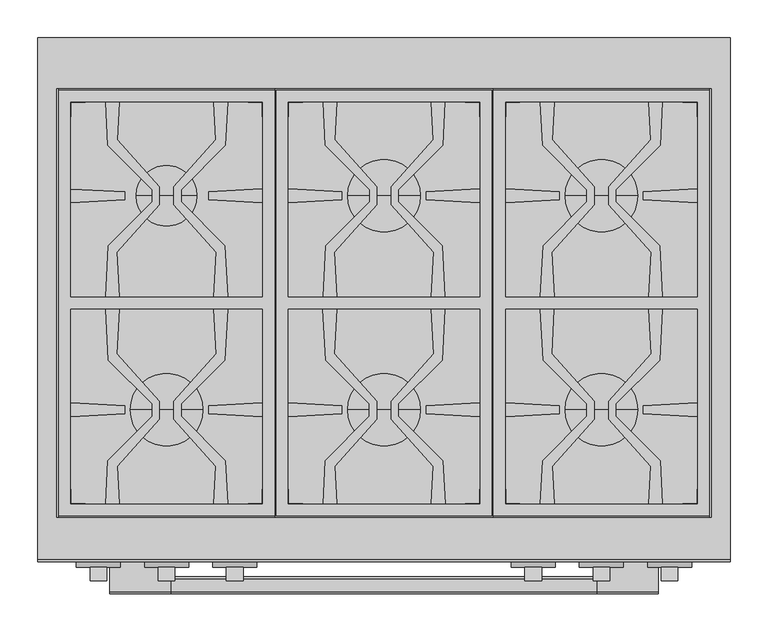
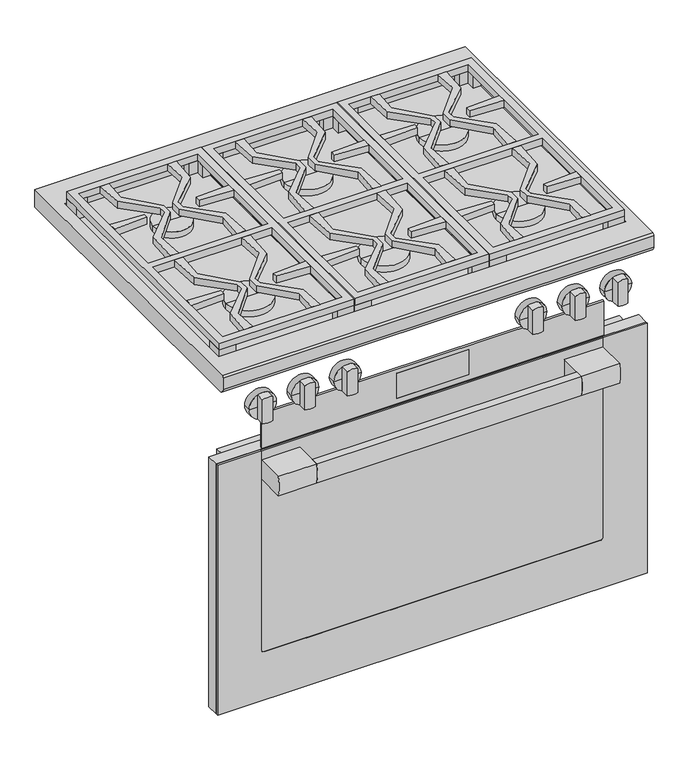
"""IFC4 building model written with IfcOpenShell, lengths in millimetres: proxy geometry, 11791590_USA_HR1934-3LP_EDST-CLS : 25193482_USA_11791590_HR1934-3LP_EDST-CLS."""

from ifc_helpers import new_model, si_unit, point, frame, frame_2d, origin, place, context, project, spatial, polyline, circle_curve, trimmed, segment, composite_curve, outline, extrude, source, transform, mapped, element, save
from ifc_brep_helpers import plane_surface, cylinder_surface, revolved_surface, advanced_brep


def specialty_equipment_1dc6350c(model_context):
    return source(origin(), model_context, "Body", "SolidModel", [
        extrude(outline(composite_curve([segment(polyline([(-714.0, 624.0), (-731.0, 624.0)]), True, "CONTINUOUS"), segment(trimmed(circle_curve(frame_2d((-655.4583333, 645.5)), 78.5416667), [point((-731.0, 624.0))], [point((-731.0, 667.0))], False, "CARTESIAN"), True, "CONTINUOUS"), segment(polyline([(-731.0, 667.0), (-714.0, 667.0)]), True, "CONTINUOUS"), segment(trimmed(circle_curve(frame_2d((-789.5416667, 645.5)), 78.5416667), [point((-714.0, 667.0))], [point((-714.0, 624.0))], False, "CARTESIAN"), True, "CONTINUOUS")], self_intersect=False)), frame((-281.0, 0.0, 0.0), z_axis=(1.0, 0.0, 0.0), x_axis=(0.0, 1.0, 0.0)), (0.0, 0.0, 1.0), 562.0),
        extrude(outline(composite_curve([segment(polyline([(-731.0, 667.0), (-668.7, 667.0), (-668.7, 624.0), (-731.0, 624.0)]), True, "CONTINUOUS"), segment(trimmed(circle_curve(frame_2d((-655.4583333, 645.5)), 78.5416667), [point((-731.0, 624.0))], [point((-731.0, 667.0))], False, "CARTESIAN"), True, "CONTINUOUS")], self_intersect=False)), frame((281.0, 0.0, 0.0), z_axis=(1.0, 0.0, 0.0), x_axis=(0.0, 1.0, 0.0)), (0.0, 0.0, 1.0), 81.0),
        extrude(outline(composite_curve([segment(polyline([(-668.7, 667.0), (-668.7, 624.0), (-731.0, 624.0)]), True, "CONTINUOUS"), segment(trimmed(circle_curve(frame_2d((-655.4583333, 645.5)), 78.5416667), [point((-731.0, 624.0))], [point((-731.0, 667.0))], False, "CARTESIAN"), True, "CONTINUOUS"), segment(polyline([(-731.0, 667.0), (-668.7, 667.0)]), True, "CONTINUOUS")], self_intersect=False)), frame((-362.0, 0.0, 0.0), z_axis=(1.0, 0.0, 0.0), x_axis=(0.0, 1.0, 0.0)), (0.0, 0.0, 1.0), 81.0),
        extrude(outline(polyline([(-456.0, -638.0), (456.0, -638.0), (456.0, -664.7), (-456.0, -664.7), (-456.0, -638.0)])), frame((0.0, 0.0, 127.0), z_axis=(0.0, 0.0, 1.0), x_axis=(1.0, 0.0, 0.0)), (0.0, 0.0, 1.0), 561.0),
        extrude(outline(polyline([(-455.0, -664.7), (455.0, -664.7), (455.0, -668.7), (-455.0, -668.7), (-455.0, -664.7)])), frame((0.0, 0.0, 128.0), z_axis=(0.0, 0.0, 1.0), x_axis=(1.0, 0.0, 0.0)), (0.0, 0.0, 1.0), 559.0),
        advanced_brep(
        [(363.0, -664.7, 688.0), (456.0, -664.7, 688.0), (456.0, -664.7, 127.0), (-456.0, -664.7, 127.0), (-456.0, -664.7, 688.0), (-363.0, -664.7, 688.0), (-363.0, -664.7, 687.0), (-455.0, -664.7, 687.0), (-455.0, -664.7, 128.0), (455.0, -664.7, 128.0), (455.0, -664.7, 687.0), (363.0, -664.7, 687.0), (-363.0, -670.0, 688.0), (-456.0, -670.0, 688.0), (-456.0, -670.0, 127.0), (456.0, -670.0, 127.0), (456.0, -670.0, 688.0), (363.0, -670.0, 688.0), (363.0, -670.0, 241.0), (357.0, -670.0, 235.0), (-357.0, -670.0, 235.0), (-363.0, -670.0, 241.0), (-363.0, -668.7, 241.0), (-363.0, -668.7, 687.0), (357.0, -668.7, 235.0), (-357.0, -668.7, 235.0), (363.0, -668.7, 687.0), (363.0, -668.7, 241.0), (455.0, -668.7, 687.0), (455.0, -668.7, 128.0), (-455.0, -668.7, 128.0), (-455.0, -668.7, 687.0)],
        [
            (0, 1),
            (1, 2),
            (2, 3),
            (3, 4),
            (4, 5),
            (5, 6),
            (6, 7),
            (7, 8),
            (8, 9),
            (9, 10),
            (10, 11),
            (11, 0),
            (12, 13),
            (13, 14),
            (14, 15),
            (15, 16),
            (16, 17),
            (17, 18),
            (18, 19, circle_curve(frame((357.0, -670.0, 241.0), z_axis=(0.0, 1.0, 0.0), x_axis=(-1.0, 0.0, 0.0)), 6.0)),
            (19, 20),
            (20, 21, circle_curve(frame((-357.0, -670.0, 241.0), z_axis=(0.0, 1.0, 0.0), x_axis=(-1.0, 0.0, 0.0)), 6.0)),
            (21, 12),
            (21, 22),
            (22, 23),
            (23, 6),
            (5, 12),
            (19, 24),
            (24, 25),
            (25, 20),
            (17, 0),
            (11, 26),
            (26, 27),
            (27, 18),
            (16, 1),
            (15, 2),
            (14, 3),
            (13, 4),
            (25, 22, circle_curve(frame((-357.0, -668.7, 241.0), z_axis=(0.0, 1.0, 0.0), x_axis=(-1.0, 0.0, 0.0)), 6.0)),
            (27, 24, circle_curve(frame((357.0, -668.7, 241.0), z_axis=(0.0, 1.0, 0.0), x_axis=(-1.0, 0.0, 0.0)), 6.0)),
            (28, 29),
            (29, 30),
            (30, 31),
            (31, 23),
            (26, 28),
            (28, 10),
            (9, 29),
            (8, 30),
            (7, 31),
        ],
        [
            plane_surface(frame((-363.0, -664.7, 241.0), z_axis=(0.0, 1.0, 0.0), x_axis=(0.0, 0.0, -1.0))),
            plane_surface(frame((-363.0, -670.0, 241.0), z_axis=(0.0, -1.0, 0.0), x_axis=(0.0, 0.0, 1.0))),
            plane_surface(frame((-363.0, -664.7, 688.0), z_axis=(1.0, 0.0, 0.0), x_axis=(0.0, -1.0, 0.0))),
            plane_surface(frame((-357.0, -664.7, 235.0), z_axis=(0.0, 0.0, 1.0), x_axis=(0.0, -1.0, 0.0))),
            plane_surface(frame((363.0, -664.7, 241.0), z_axis=(-1.0, 0.0, 0.0), x_axis=(0.0, -1.0, 0.0))),
            plane_surface(frame((363.0, -664.7, 688.0), z_axis=(0.0, 0.0, 1.0), x_axis=(0.0, -1.0, 0.0))),
            plane_surface(frame((456.0, -664.7, 688.0), z_axis=(1.0, 0.0, 0.0), x_axis=(0.0, -1.0, 0.0))),
            plane_surface(frame((456.0, -664.7, 127.0), z_axis=(0.0, 0.0, -1.0), x_axis=(0.0, -1.0, 0.0))),
            plane_surface(frame((-456.0, -664.7, 127.0), z_axis=(-1.0, 0.0, 0.0), x_axis=(0.0, -1.0, 0.0))),
            plane_surface(frame((-456.0, -664.7, 688.0), z_axis=(0.0, 0.0, 1.0), x_axis=(0.0, -1.0, 0.0))),
            revolved_surface(polyline([(-363.0, -670.0, 241.0), (-363.0, -668.7, 241.0)]), (-357.0, -670.0, 241.0), (0.0, -1.0, 0.0)),
            revolved_surface(polyline([(351.0, -670.0, 241.0), (351.0, -668.7, 241.0)]), (357.0, -670.0, 241.0), (0.0, -1.0, 0.0)),
            plane_surface(frame((455.0, -668.7, 687.0), z_axis=(0.0, 1.0, 0.0), x_axis=(0.0, 0.0, 1.0))),
            plane_surface(frame((455.0, -664.7, 687.0), z_axis=(-1.0, 0.0, 0.0), x_axis=(0.0, -1.0, 0.0))),
            plane_surface(frame((455.0, -664.7, 128.0), z_axis=(0.0, 0.0, 1.0), x_axis=(0.0, -1.0, 0.0))),
            plane_surface(frame((-455.0, -664.7, 128.0), z_axis=(1.0, 0.0, 0.0), x_axis=(0.0, -1.0, 0.0))),
            plane_surface(frame((-455.0, -664.7, 687.0), z_axis=(0.0, 0.0, -1.0), x_axis=(0.0, -1.0, 0.0))),
        ],
        [
            (0, [[1, 2, 3, 4, 5, 6, 7, 8, 9, 10, 11, 12]]),
            (1, [[13, 14, 15, 16, 17, 18, 19, 20, 21, 22]]),
            (2, [[-22, 23, 24, 25, -6, 26]]),
            (3, [[-20, 27, 28, 29]]),
            (4, [[-18, 30, -12, 31, 32, 33]]),
            (5, [[-1, -30, -17, 34]]),
            (6, [[-2, -34, -16, 35]]),
            (7, [[-3, -35, -15, 36]]),
            (8, [[-4, -36, -14, 37]]),
            (9, [[-5, -37, -13, -26]]),
            (10, [[-21, -29, 38, -23]]),
            (11, [[-19, -33, 39, -27]]),
            (12, [[40, 41, 42, 43, -24, -38, -28, -39, -32, 44]]),
            (13, [[-40, 45, -10, 46]]),
            (14, [[-41, -46, -9, 47]]),
            (15, [[-42, -47, -8, 48]]),
            (16, [[-45, -44, -31, -11]]),
            (16, [[-48, -7, -25, -43]]),
        ],
    ),
        extrude(outline(polyline([(-427.0, -617.0), (427.0, -617.0), (427.0, -638.0), (-427.0, -638.0), (-427.0, -617.0)])), frame((0.0, 0.0, 133.0), z_axis=(0.0, 0.0, 1.0), x_axis=(1.0, 0.0, 0.0)), (0.0, 0.0, 1.0), 550.0),
        extrude(outline(polyline([(206.4177304, -358.0273828), (224.4174107, -358.0273828), (221.3474419, -416.9894265), (277.4590566, -479.568392), (277.4590566, -503.4471434), (221.8930533, -565.5024535), (224.5051055, -615.0212482), (206.5054252, -615.0212482), (209.4706458, -558.0710081), (267.8494553, -499.6921986), (267.8494553, -483.3657133), (209.9764383, -425.4926963), (206.4177304, -358.0273828)])), frame((0.0, 0.0, 914.0), z_axis=(0.0, 0.0, 1.0), x_axis=(1.0, 0.0, 0.0)), (0.0, 0.0, 1.0), 15.0),
        extrude(outline(polyline([(352.5666917, -416.9448139), (349.4588735, -358.0273828), (367.4534566, -358.0273828), (363.9434746, -425.4403498), (306.0712231, -483.3126013), (306.0712231, -499.6295194), (364.5438392, -558.1021355), (367.5462487, -615.0212482), (349.541471, -615.0212482), (352.1220648, -565.4581775), (296.4590702, -503.3795395), (296.4590702, -479.6049953), (352.5666917, -416.9448139)])), frame((0.0, 0.0, 914.0), z_axis=(0.0, 0.0, 1.0), x_axis=(1.0, 0.0, 0.0)), (0.0, 0.0, 1.0), 15.0),
        extrude(outline(polyline([(-80.5822696, -358.0273828), (-62.5825893, -358.0273828), (-65.6525581, -416.9894265), (-9.5409434, -479.568392), (-9.5409434, -503.4471434), (-65.1069467, -565.5024535), (-62.4948945, -615.0212482), (-80.4945748, -615.0212482), (-77.5293542, -558.0710081), (-19.1505447, -499.6921986), (-19.1505447, -483.3657133), (-77.0235617, -425.4926963), (-80.5822696, -358.0273828)])), frame((0.0, 0.0, 914.0), z_axis=(0.0, 0.0, 1.0), x_axis=(1.0, 0.0, 0.0)), (0.0, 0.0, 1.0), 15.0),
        extrude(outline(polyline([(65.5666917, -416.9448139), (62.4588735, -358.0273828), (80.4534566, -358.0273828), (76.9434746, -425.4403498), (19.0712231, -483.3126013), (19.0712231, -499.6295194), (77.5438392, -558.1021355), (80.5462487, -615.0212482), (62.541471, -615.0212482), (65.1220648, -565.4581775), (9.4590702, -503.3795395), (9.4590702, -479.6049953), (65.5666917, -416.9448139)])), frame((0.0, 0.0, 914.0), z_axis=(0.0, 0.0, 1.0), x_axis=(1.0, 0.0, 0.0)), (0.0, 0.0, 1.0), 15.0),
        extrude(outline(polyline([(-367.5822696, -358.0273828), (-349.5825893, -358.0273828), (-352.6525581, -416.9894265), (-296.5409434, -479.568392), (-296.5409434, -503.4471434), (-352.1069467, -565.5024535), (-349.4948945, -615.0212482), (-367.4945748, -615.0212482), (-364.5293542, -558.0710081), (-306.1505447, -499.6921986), (-306.1505447, -483.3657133), (-364.0235617, -425.4926963), (-367.5822696, -358.0273828)])), frame((0.0, 0.0, 914.0), z_axis=(0.0, 0.0, 1.0), x_axis=(1.0, 0.0, 0.0)), (0.0, 0.0, 1.0), 15.0),
        extrude(outline(polyline([(-224.5411265, -358.0273828), (-206.5465434, -358.0273828), (-210.0565254, -425.4403498), (-267.9287769, -483.3126013), (-267.9287769, -499.6295194), (-209.4561608, -558.1021355), (-206.4537513, -615.0212482), (-224.458529, -615.0212482), (-221.8779352, -565.4581775), (-277.5409298, -503.3795395), (-277.5409298, -479.6049953), (-221.4333083, -416.9448139), (-224.5411265, -358.0273828)])), frame((0.0, 0.0, 914.0), z_axis=(0.0, 0.0, 1.0), x_axis=(1.0, 0.0, 0.0)), (0.0, 0.0, 1.0), 15.0),
        extrude(outline(polyline([(206.4614138, -85.0), (224.4614138, -85.0), (221.8661974, -134.5196799), (277.5, -196.6082182), (277.5, -220.3917818), (221.3710782, -283.0328838), (224.4614138, -342.0), (206.4614138, -342.0), (209.9971843, -274.5334805), (267.8891082, -216.6415566), (267.8891082, -200.3584434), (209.4441217, -141.9134569), (206.4614138, -85.0)])), frame((0.0, 0.0, 914.0), z_axis=(0.0, 0.0, 1.0), x_axis=(1.0, 0.0, 0.0)), (0.0, 0.0, 1.0), 15.0),
        extrude(outline(polyline([(349.5, -85.0), (367.5, -85.0), (364.5172921, -141.9134569), (306.1108918, -200.3198573), (306.1108918, -216.6801428), (363.9642295, -274.5334805), (367.5, -342.0), (349.5, -342.0), (352.5903356, -283.0328839), (296.5, -220.4348449), (296.5, -196.5651551), (352.0952165, -134.5196799), (349.5, -85.0)])), frame((0.0, 0.0, 914.0), z_axis=(0.0, 0.0, 1.0), x_axis=(1.0, 0.0, 0.0)), (0.0, 0.0, 1.0), 15.0),
        extrude(outline(polyline([(-367.5385862, -85.0), (-349.5385862, -85.0), (-352.1338026, -134.5196799), (-296.5, -196.6082182), (-296.5, -220.3917818), (-352.6289218, -283.0328838), (-349.5385862, -342.0), (-367.5385862, -342.0), (-364.0028157, -274.5334805), (-306.1108918, -216.6415566), (-306.1108918, -200.3584434), (-364.5558783, -141.9134569), (-367.5385862, -85.0)])), frame((0.0, 0.0, 914.0), z_axis=(0.0, 0.0, 1.0), x_axis=(1.0, 0.0, 0.0)), (0.0, 0.0, 1.0), 15.0),
        extrude(outline(polyline([(-224.5, -85.0), (-206.5, -85.0), (-209.4827079, -141.9134569), (-267.8891082, -200.3198573), (-267.8891082, -216.6801428), (-210.0357705, -274.5334805), (-206.5, -342.0), (-224.5, -342.0), (-221.4096644, -283.0328839), (-277.5, -220.4348449), (-277.5, -196.5651551), (-221.9047835, -134.5196799), (-224.5, -85.0)])), frame((0.0, 0.0, 914.0), z_axis=(0.0, 0.0, 1.0), x_axis=(1.0, 0.0, 0.0)), (0.0, 0.0, 1.0), 15.0),
        extrude(outline(polyline([(-62.5385862, -85.0), (-65.1338026, -134.5196799), (-9.5, -196.6082182), (-9.5, -220.3917818), (-65.6289218, -283.0328838), (-62.5385862, -342.0), (-80.5385862, -342.0), (-77.0028157, -274.5334805), (-19.1108918, -216.6415566), (-19.1108918, -200.3584434), (-77.5558783, -141.9134569), (-80.5385862, -85.0), (-62.5385862, -85.0)])), frame((0.0, 0.0, 914.0), z_axis=(0.0, 0.0, 1.0), x_axis=(1.0, 0.0, 0.0)), (0.0, 0.0, 1.0), 15.0),
        extrude(outline(polyline([(65.0952165, -134.5196799), (62.5, -85.0), (80.5, -85.0), (77.5172921, -141.9134569), (19.1108918, -200.3198573), (19.1108918, -216.6801428), (76.9642295, -274.5334805), (80.5, -342.0), (62.5, -342.0), (65.5903356, -283.0328839), (9.5, -220.4348449), (9.5, -196.5651551), (65.0952165, -134.5196799)])), frame((0.0, 0.0, 914.0), z_axis=(0.0, 0.0, 1.0), x_axis=(1.0, 0.0, 0.0)), (0.0, 0.0, 1.0), 15.0),
        extrude(outline(polyline([(429.5, -67.0), (429.5, -633.0), (144.5, -633.0), (144.5, -67.0), (429.5, -67.0)])), frame((0.0, 0.0, 870.0), z_axis=(0.0, 0.0, 1.0), x_axis=(1.0, 0.0, 0.0)), (0.0, 0.0, 1.0), 17.0),
        extrude(outline(polyline([(142.5, -69.0), (142.5, -631.0), (-142.5, -631.0), (-142.5, -69.0), (142.5, -69.0)])), frame((0.0, 0.0, 870.0), z_axis=(0.0, 0.0, 1.0), x_axis=(1.0, 0.0, 0.0)), (0.0, 0.0, 1.0), 17.0),
        extrude(outline(polyline([(-144.5, -67.0), (-144.5, -633.0), (-429.5, -633.0), (-429.5, -67.0), (-144.5, -67.0)])), frame((0.0, 0.0, 870.0), z_axis=(0.0, 0.0, 1.0), x_axis=(1.0, 0.0, 0.0)), (0.0, 0.0, 1.0), 17.0),
        extrude(outline(polyline([(-342.5, -213.7921261), (-413.5, -217.4578849), (-413.5, -199.5421151), (-342.5, -203.2078739), (-342.5, -213.7921261)])), frame((0.0, 0.0, 914.0), z_axis=(0.0, 0.0, 1.0), x_axis=(1.0, 0.0, 0.0)), (0.0, 0.0, 1.0), 15.0),
        extrude(outline(polyline([(-160.5, -199.5029948), (-160.5, -217.4970052), (-231.5, -213.7790477), (-231.5, -203.2209523), (-160.5, -199.5029948)])), frame((0.0, 0.0, 914.0), z_axis=(0.0, 0.0, 1.0), x_axis=(1.0, 0.0, 0.0)), (0.0, 0.0, 1.0), 15.0),
        extrude(outline(polyline([(-342.5, -496.2921261), (-413.5, -499.9578849), (-413.5, -482.0421151), (-342.5, -485.7078739), (-342.5, -496.2921261)])), frame((0.0, 0.0, 914.0), z_axis=(0.0, 0.0, 1.0), x_axis=(1.0, 0.0, 0.0)), (0.0, 0.0, 1.0), 15.0),
        extrude(outline(polyline([(-160.5, -482.0029948), (-160.5, -499.9970052), (-231.5, -496.2790477), (-231.5, -485.7209523), (-160.5, -482.0029948)])), frame((0.0, 0.0, 914.0), z_axis=(0.0, 0.0, 1.0), x_axis=(1.0, 0.0, 0.0)), (0.0, 0.0, 1.0), 15.0),
        extrude(outline(polyline([(-144.5, -631.0), (-179.5, -631.0), (-179.5, -615.0), (-160.5, -615.0), (-160.5, -596.0), (-144.5, -596.0), (-144.5, -631.0)])), frame((0.0, 0.0, 887.0), z_axis=(0.0, 0.0, 1.0), x_axis=(1.0, 0.0, 0.0)), (0.0, 0.0, 1.0), 27.0),
        extrude(outline(polyline([(-429.5, -631.0), (-429.5, -596.0), (-413.5, -596.0), (-413.5, -615.0), (-394.5, -615.0), (-394.5, -631.0), (-429.5, -631.0)])), frame((0.0, 0.0, 887.0), z_axis=(0.0, 0.0, 1.0), x_axis=(1.0, 0.0, 0.0)), (0.0, 0.0, 1.0), 27.0),
        extrude(outline(polyline([(-144.5, -69.0), (-144.5, -104.0), (-160.5, -104.0), (-160.5, -85.0), (-179.5, -85.0), (-179.5, -69.0), (-144.5, -69.0)])), frame((0.0, 0.0, 887.0), z_axis=(0.0, 0.0, 1.0), x_axis=(1.0, 0.0, 0.0)), (0.0, 0.0, 1.0), 27.0),
        extrude(outline(polyline([(-429.5, -69.0), (-394.5, -69.0), (-394.5, -85.0), (-413.5, -85.0), (-413.5, -104.0), (-429.5, -104.0), (-429.5, -69.0)])), frame((0.0, 0.0, 887.0), z_axis=(0.0, 0.0, 1.0), x_axis=(1.0, 0.0, 0.0)), (0.0, 0.0, 1.0), 27.0),
        extrude(outline(polyline([(-126.4662166, -499.9810574), (-126.4662166, -482.0189426), (-55.4662166, -485.7078739), (-55.4662166, -496.2921261), (-126.4662166, -499.9810574)])), frame((0.0, 0.0, 914.0), z_axis=(0.0, 0.0, 1.0), x_axis=(1.0, 0.0, 0.0)), (0.0, 0.0, 1.0), 15.0),
        extrude(outline(polyline([(126.5337834, -482.0262039), (126.5337834, -499.9737961), (55.5337834, -496.2790477), (55.5337834, -485.7209523), (126.5337834, -482.0262039)])), frame((0.0, 0.0, 914.0), z_axis=(0.0, 0.0, 1.0), x_axis=(1.0, 0.0, 0.0)), (0.0, 0.0, 1.0), 15.0),
        extrude(outline(polyline([(160.5, -499.9810574), (160.5, -482.0189426), (231.5, -485.7078739), (231.5, -496.2921261), (160.5, -499.9810574)])), frame((0.0, 0.0, 914.0), z_axis=(0.0, 0.0, 1.0), x_axis=(1.0, 0.0, 0.0)), (0.0, 0.0, 1.0), 15.0),
        extrude(outline(polyline([(413.5, -482.0262039), (413.5, -499.9737961), (342.5, -496.2790477), (342.5, -485.7209523), (413.5, -482.0262039)])), frame((0.0, 0.0, 914.0), z_axis=(0.0, 0.0, 1.0), x_axis=(1.0, 0.0, 0.0)), (0.0, 0.0, 1.0), 15.0),
        extrude(outline(polyline([(160.5, -217.4810574), (160.5, -199.5189426), (231.5, -203.2078739), (231.5, -213.7921261), (160.5, -217.4810574)])), frame((0.0, 0.0, 914.0), z_axis=(0.0, 0.0, 1.0), x_axis=(1.0, 0.0, 0.0)), (0.0, 0.0, 1.0), 15.0),
        extrude(outline(polyline([(413.5, -199.5262039), (413.5, -217.4737961), (342.5, -213.7790477), (342.5, -203.2209523), (413.5, -199.5262039)])), frame((0.0, 0.0, 914.0), z_axis=(0.0, 0.0, 1.0), x_axis=(1.0, 0.0, 0.0)), (0.0, 0.0, 1.0), 15.0),
        extrude(outline(polyline([(-126.4662166, -217.4810574), (-126.4662166, -199.5189426), (-55.4662166, -203.2078739), (-55.4662166, -213.7921261), (-126.4662166, -217.4810574)])), frame((0.0, 0.0, 914.0), z_axis=(0.0, 0.0, 1.0), x_axis=(1.0, 0.0, 0.0)), (0.0, 0.0, 1.0), 15.0),
        extrude(outline(polyline([(126.5337834, -199.5262039), (126.5337834, -217.4737961), (55.5337834, -213.7790477), (55.5337834, -203.2209523), (126.5337834, -199.5262039)])), frame((0.0, 0.0, 914.0), z_axis=(0.0, 0.0, 1.0), x_axis=(1.0, 0.0, 0.0)), (0.0, 0.0, 1.0), 15.0),
        advanced_brep(
        [(239.0, -208.5, 887.0), (335.0, -208.5, 887.0), (335.0, -208.5, 901.0), (239.0, -208.5, 901.0), (287.0, -208.5, 887.0), (287.0, -208.5, 901.0)],
        [
            (0, 1, circle_curve(frame((287.0, -208.5, 887.0), z_axis=(0.0, 0.0, 1.0), x_axis=(1.0, 0.0, 0.0)), 48.0)),
            (1, 2),
            (2, 3, circle_curve(frame((287.0, -208.5, 901.0), z_axis=(0.0, 0.0, -1.0), x_axis=(1.0, 0.0, 0.0)), 48.0)),
            (3, 0),
            (1, 0, circle_curve(frame((287.0, -208.5, 887.0), z_axis=(0.0, 0.0, 1.0), x_axis=(1.0, 0.0, 0.0)), 48.0)),
            (3, 2, circle_curve(frame((287.0, -208.5, 901.0), z_axis=(0.0, 0.0, -1.0), x_axis=(1.0, 0.0, 0.0)), 48.0)),
            (4, 1),
            (0, 4),
            (2, 5),
            (5, 3),
        ],
        [
            cylinder_surface(frame((287.0, -208.5, 2424.4), z_axis=(0.0, 0.0, -1.0), x_axis=(1.0, 0.0, 0.0)), 48.0),
            plane_surface(frame((287.0, -208.5, 887.0), z_axis=(0.0, 0.0, -1.0), x_axis=(1.0, 0.0, 0.0))),
            plane_surface(frame((287.0, -208.5, 901.0), z_axis=(0.0, 0.0, 1.0), x_axis=(1.0, 0.0, 0.0))),
        ],
        [
            (0, [[1, 2, 3, 4]]),
            (0, [[5, -4, 6, -2]]),
            (1, [[7, -1, 8]]),
            (1, [[-8, -5, -7]]),
            (2, [[-3, 9, 10]]),
            (2, [[-6, -10, -9]]),
        ],
    ),
        extrude(outline(polyline([(-144.5, -69.0), (-144.5, -631.0), (-429.5, -631.0), (-429.5, -69.0), (-144.5, -69.0)]), holes=[polyline([(-160.5, -85.0), (-413.5, -85.0), (-413.5, -342.0), (-160.5, -342.0), (-160.5, -85.0)]), polyline([(-413.5, -358.0), (-413.5, -615.0), (-160.5, -615.0), (-160.5, -358.0), (-413.5, -358.0)])]), frame((0.0, 0.0, 914.0), z_axis=(0.0, 0.0, 1.0), x_axis=(1.0, 0.0, 0.0)), (0.0, 0.0, 1.0), 15.0),
        extrude(outline(polyline([(142.5, -69.0), (142.5, -631.0), (-142.5, -631.0), (-142.5, -69.0), (142.5, -69.0)]), holes=[polyline([(126.5337834, -85.0), (-126.4662166, -85.0), (-126.4662166, -342.0), (126.5337834, -342.0), (126.5337834, -85.0)]), polyline([(-126.4662166, -358.0), (-126.4662166, -615.0), (126.5337834, -615.0), (126.5337834, -358.0), (-126.4662166, -358.0)])]), frame((0.0, 0.0, 914.0), z_axis=(0.0, 0.0, 1.0), x_axis=(1.0, 0.0, 0.0)), (0.0, 0.0, 1.0), 15.0),
        extrude(outline(polyline([(429.5, -69.0), (429.5, -631.0), (144.5, -631.0), (144.5, -69.0), (429.5, -69.0)]), holes=[polyline([(413.5, -85.0), (160.5, -85.0), (160.5, -342.0), (413.5, -342.0), (413.5, -85.0)]), polyline([(160.5, -358.0), (160.5, -615.0), (413.5, -615.0), (413.5, -358.0), (160.5, -358.0)])]), frame((0.0, 0.0, 914.0), z_axis=(0.0, 0.0, 1.0), x_axis=(1.0, 0.0, 0.0)), (0.0, 0.0, 1.0), 15.0),
        advanced_brep(
        [(239.0, -491.0, 887.0), (335.0, -491.0, 887.0), (335.0, -491.0, 901.0), (239.0, -491.0, 901.0), (287.0, -491.0, 887.0), (287.0, -491.0, 901.0)],
        [
            (0, 1, circle_curve(frame((287.0, -491.0, 887.0), z_axis=(0.0, 0.0, 1.0), x_axis=(1.0, 0.0, 0.0)), 48.0)),
            (1, 2),
            (2, 3, circle_curve(frame((287.0, -491.0, 901.0), z_axis=(0.0, 0.0, -1.0), x_axis=(1.0, 0.0, 0.0)), 48.0)),
            (3, 0),
            (1, 0, circle_curve(frame((287.0, -491.0, 887.0), z_axis=(0.0, 0.0, 1.0), x_axis=(1.0, 0.0, 0.0)), 48.0)),
            (3, 2, circle_curve(frame((287.0, -491.0, 901.0), z_axis=(0.0, 0.0, -1.0), x_axis=(1.0, 0.0, 0.0)), 48.0)),
            (4, 1),
            (0, 4),
            (2, 5),
            (5, 3),
        ],
        [
            cylinder_surface(frame((287.0, -491.0, 2424.4), z_axis=(0.0, 0.0, -1.0), x_axis=(1.0, 0.0, 0.0)), 48.0),
            plane_surface(frame((287.0, -491.0, 887.0), z_axis=(0.0, 0.0, -1.0), x_axis=(1.0, 0.0, 0.0))),
            plane_surface(frame((287.0, -491.0, 901.0), z_axis=(0.0, 0.0, 1.0), x_axis=(1.0, 0.0, 0.0))),
        ],
        [
            (0, [[1, 2, 3, 4]]),
            (0, [[5, -4, 6, -2]]),
            (1, [[7, -1, 8]]),
            (1, [[-8, -5, -7]]),
            (2, [[-3, 9, 10]]),
            (2, [[-6, -10, -9]]),
        ],
    ),
        extrude(outline(polyline([(429.5, -631.0), (394.5, -631.0), (394.5, -615.0), (413.5, -615.0), (413.5, -596.0), (429.5, -596.0), (429.5, -631.0)])), frame((0.0, 0.0, 887.0), z_axis=(0.0, 0.0, 1.0), x_axis=(1.0, 0.0, 0.0)), (0.0, 0.0, 1.0), 27.0),
        extrude(outline(polyline([(144.5, -631.0), (144.5, -596.0), (160.5125078, -596.0), (160.5125078, -615.0), (179.5, -615.0), (179.5, -631.0), (144.5, -631.0)])), frame((0.0, 0.0, 887.0), z_axis=(0.0, 0.0, 1.0), x_axis=(1.0, 0.0, 0.0)), (0.0, 0.0, 1.0), 27.0),
        extrude(outline(polyline([(429.5, -69.0), (429.5, -104.0), (413.4874922, -104.0), (413.4874922, -85.0), (394.5, -85.0), (394.5, -69.0), (429.5, -69.0)])), frame((0.0, 0.0, 887.0), z_axis=(0.0, 0.0, 1.0), x_axis=(1.0, 0.0, 0.0)), (0.0, 0.0, 1.0), 27.0),
        extrude(outline(polyline([(144.5, -69.0), (179.5, -69.0), (179.5, -85.0), (160.5125078, -85.0), (160.5125078, -104.0), (144.5, -104.0), (144.5, -69.0)])), frame((0.0, 0.0, 887.0), z_axis=(0.0, 0.0, 1.0), x_axis=(1.0, 0.0, 0.0)), (0.0, 0.0, 1.0), 27.0),
        extrude(outline(polyline([(142.5, -631.0), (107.5, -631.0), (107.5, -615.0), (126.5337834, -615.0), (126.5337834, -596.0), (142.5, -596.0), (142.5, -631.0)])), frame((0.0, 0.0, 887.0), z_axis=(0.0, 0.0, 1.0), x_axis=(1.0, 0.0, 0.0)), (0.0, 0.0, 1.0), 27.0),
        extrude(outline(polyline([(-142.5, -631.0), (-142.5, -596.0), (-126.4662166, -596.0), (-126.4662166, -615.0), (-107.5, -615.0), (-107.5, -631.0), (-142.5, -631.0)])), frame((0.0, 0.0, 887.0), z_axis=(0.0, 0.0, 1.0), x_axis=(1.0, 0.0, 0.0)), (0.0, 0.0, 1.0), 27.0),
        extrude(outline(polyline([(142.5, -69.0), (142.5, -104.0), (126.5337834, -104.0), (126.5337834, -85.0), (107.5, -85.0), (107.5, -69.0), (142.5, -69.0)])), frame((0.0, 0.0, 887.0), z_axis=(0.0, 0.0, 1.0), x_axis=(1.0, 0.0, 0.0)), (0.0, 0.0, 1.0), 27.0),
        extrude(outline(polyline([(-142.5, -69.0), (-107.5, -69.0), (-107.5, -85.0), (-126.4662166, -85.0), (-126.4662166, -104.0), (-142.5, -104.0), (-142.5, -69.0)])), frame((0.0, 0.0, 887.0), z_axis=(0.0, 0.0, 1.0), x_axis=(1.0, 0.0, 0.0)), (0.0, 0.0, 1.0), 27.0),
        advanced_brep(
        [(-48.0, -208.5, 887.0), (48.0, -208.5, 887.0), (48.0, -208.5, 901.0), (-48.0, -208.5, 901.0), (0.0, -208.5, 887.0), (0.0, -208.5, 901.0)],
        [
            (0, 1, circle_curve(frame((0.0, -208.5, 887.0), z_axis=(0.0, 0.0, 1.0), x_axis=(1.0, 0.0, 0.0)), 48.0)),
            (1, 2),
            (2, 3, circle_curve(frame((0.0, -208.5, 901.0), z_axis=(0.0, 0.0, -1.0), x_axis=(1.0, 0.0, 0.0)), 48.0)),
            (3, 0),
            (1, 0, circle_curve(frame((0.0, -208.5, 887.0), z_axis=(0.0, 0.0, 1.0), x_axis=(1.0, 0.0, 0.0)), 48.0)),
            (3, 2, circle_curve(frame((0.0, -208.5, 901.0), z_axis=(0.0, 0.0, -1.0), x_axis=(1.0, 0.0, 0.0)), 48.0)),
            (4, 1),
            (0, 4),
            (2, 5),
            (5, 3),
        ],
        [
            cylinder_surface(frame((0.0, -208.5, 2338.4), z_axis=(0.0, 0.0, -1.0), x_axis=(1.0, 0.0, 0.0)), 48.0),
            plane_surface(frame((0.0, -208.5, 887.0), z_axis=(0.0, 0.0, -1.0), x_axis=(1.0, 0.0, 0.0))),
            plane_surface(frame((0.0, -208.5, 901.0), z_axis=(0.0, 0.0, 1.0), x_axis=(1.0, 0.0, 0.0))),
        ],
        [
            (0, [[1, 2, 3, 4]]),
            (0, [[5, -4, 6, -2]]),
            (1, [[7, -1, 8]]),
            (1, [[-8, -5, -7]]),
            (2, [[-3, 9, 10]]),
            (2, [[-6, -10, -9]]),
        ],
    ),
        advanced_brep(
        [(-287.0, -208.5, 887.0), (-247.0, -208.5, 887.0), (-327.0, -208.5, 887.0), (-327.0, -208.5, 901.0), (-247.0, -208.5, 901.0), (-287.0, -208.5, 901.0)],
        [
            (0, 1),
            (1, 2, circle_curve(frame((-287.0, -208.5, 887.0), z_axis=(0.0, 0.0, -1.0), x_axis=(1.0, 0.0, 0.0)), 40.0)),
            (2, 0),
            (2, 1, circle_curve(frame((-287.0, -208.5, 887.0), z_axis=(0.0, 0.0, -1.0), x_axis=(1.0, 0.0, 0.0)), 40.0)),
            (3, 4, circle_curve(frame((-287.0, -208.5, 901.0), z_axis=(0.0, 0.0, 1.0), x_axis=(1.0, 0.0, 0.0)), 40.0)),
            (4, 5),
            (5, 3),
            (4, 3, circle_curve(frame((-287.0, -208.5, 901.0), z_axis=(0.0, 0.0, 1.0), x_axis=(1.0, 0.0, 0.0)), 40.0)),
            (1, 4),
            (3, 2),
        ],
        [
            plane_surface(frame((-287.0, -208.5, 887.0), z_axis=(0.0, 0.0, -1.0), x_axis=(1.0, 0.0, 0.0))),
            plane_surface(frame((-287.0, -208.5, 901.0), z_axis=(0.0, 0.0, 1.0), x_axis=(1.0, 0.0, 0.0))),
            cylinder_surface(frame((-287.0, -208.5, 2424.4), z_axis=(0.0, 0.0, -1.0), x_axis=(1.0, 0.0, 0.0)), 40.0),
        ],
        [
            (0, [[1, 2, 3]]),
            (0, [[-3, 4, -1]]),
            (1, [[5, 6, 7]]),
            (1, [[8, -7, -6]]),
            (2, [[-2, 9, -5, 10]]),
            (2, [[-4, -10, -8, -9]]),
        ],
    ),
        advanced_brep(
        [(-335.0, -491.0, 887.0), (-239.0, -491.0, 887.0), (-239.0, -491.0, 901.0), (-335.0, -491.0, 901.0), (-287.0, -491.0, 887.0), (-287.0, -491.0, 901.0)],
        [
            (0, 1, circle_curve(frame((-287.0, -491.0, 887.0), z_axis=(0.0, 0.0, 1.0), x_axis=(1.0, 0.0, 0.0)), 48.0)),
            (1, 2),
            (2, 3, circle_curve(frame((-287.0, -491.0, 901.0), z_axis=(0.0, 0.0, -1.0), x_axis=(1.0, 0.0, 0.0)), 48.0)),
            (3, 0),
            (1, 0, circle_curve(frame((-287.0, -491.0, 887.0), z_axis=(0.0, 0.0, 1.0), x_axis=(1.0, 0.0, 0.0)), 48.0)),
            (3, 2, circle_curve(frame((-287.0, -491.0, 901.0), z_axis=(0.0, 0.0, -1.0), x_axis=(1.0, 0.0, 0.0)), 48.0)),
            (4, 1),
            (0, 4),
            (2, 5),
            (5, 3),
        ],
        [
            cylinder_surface(frame((-287.0, -491.0, 2424.4), z_axis=(0.0, 0.0, -1.0), x_axis=(1.0, 0.0, 0.0)), 48.0),
            plane_surface(frame((-287.0, -491.0, 887.0), z_axis=(0.0, 0.0, -1.0), x_axis=(1.0, 0.0, 0.0))),
            plane_surface(frame((-287.0, -491.0, 901.0), z_axis=(0.0, 0.0, 1.0), x_axis=(1.0, 0.0, 0.0))),
        ],
        [
            (0, [[1, 2, 3, 4]]),
            (0, [[5, -4, 6, -2]]),
            (1, [[7, -1, 8]]),
            (1, [[-8, -5, -7]]),
            (2, [[-3, 9, 10]]),
            (2, [[-6, -10, -9]]),
        ],
    ),
        advanced_brep(
        [(-48.0, -491.0, 887.0), (48.0, -491.0, 887.0), (48.0, -491.0, 901.0), (-48.0, -491.0, 901.0), (0.0, -491.0, 887.0), (0.0, -491.0, 901.0)],
        [
            (0, 1, circle_curve(frame((0.0, -491.0, 887.0), z_axis=(0.0, 0.0, 1.0), x_axis=(1.0, 0.0, 0.0)), 48.0)),
            (1, 2),
            (2, 3, circle_curve(frame((0.0, -491.0, 901.0), z_axis=(0.0, 0.0, -1.0), x_axis=(1.0, 0.0, 0.0)), 48.0)),
            (3, 0),
            (1, 0, circle_curve(frame((0.0, -491.0, 887.0), z_axis=(0.0, 0.0, 1.0), x_axis=(1.0, 0.0, 0.0)), 48.0)),
            (3, 2, circle_curve(frame((0.0, -491.0, 901.0), z_axis=(0.0, 0.0, -1.0), x_axis=(1.0, 0.0, 0.0)), 48.0)),
            (4, 1),
            (0, 4),
            (2, 5),
            (5, 3),
        ],
        [
            cylinder_surface(frame((0.0, -491.0, 2424.4), z_axis=(0.0, 0.0, -1.0), x_axis=(1.0, 0.0, 0.0)), 48.0),
            plane_surface(frame((0.0, -491.0, 887.0), z_axis=(0.0, 0.0, -1.0), x_axis=(1.0, 0.0, 0.0))),
            plane_surface(frame((0.0, -491.0, 901.0), z_axis=(0.0, 0.0, 1.0), x_axis=(1.0, 0.0, 0.0))),
        ],
        [
            (0, [[1, 2, 3, 4]]),
            (0, [[5, -4, 6, -2]]),
            (1, [[7, -1, 8]]),
            (1, [[-8, -5, -7]]),
            (2, [[-3, 9, 10]]),
            (2, [[-6, -10, -9]]),
        ],
    ),
        advanced_brep(
        [(457.0, 0.0, 902.0), (457.0, -688.3499547, 902.0), (457.0, -692.0, 898.3499547), (457.0, -692.0, 872.0), (457.0, -682.0, 862.0), (457.0, 0.0, 862.0), (-457.0, 0.0, 902.0), (-457.0, 0.0, 862.0), (-457.0, -682.0, 862.0), (-457.0, -692.0, 872.0), (-457.0, -692.0, 898.3499547), (-457.0, -688.3499547, 902.0), (-432.0, -67.0, 902.0), (432.0, -67.0, 902.0), (432.0, -633.0, 902.0), (-432.0, -633.0, 902.0), (432.0, -67.0, 870.0), (-432.0, -67.0, 870.0), (-432.0, -633.0, 870.0), (432.0, -633.0, 870.0)],
        [
            (0, 1),
            (1, 2, circle_curve(frame((457.0, -688.0, 898.0), z_axis=(1.0, 0.0, 0.0), x_axis=(0.0, 0.0, 1.0)), 4.0152794)),
            (2, 3),
            (3, 4, circle_curve(frame((457.0, -682.0, 872.0), z_axis=(1.0, 0.0, 0.0), x_axis=(0.0, 0.0, 1.0)), 10.0)),
            (4, 5),
            (5, 0),
            (6, 7),
            (7, 8),
            (8, 9, circle_curve(frame((-457.0, -682.0, 872.0), z_axis=(-1.0, 0.0, 0.0), x_axis=(0.0, 0.0, 1.0)), 10.0)),
            (9, 10),
            (10, 11, circle_curve(frame((-457.0, -688.0, 898.0), z_axis=(-1.0, 0.0, 0.0), x_axis=(0.0, 0.0, 1.0)), 4.0152794)),
            (11, 6),
            (0, 6),
            (11, 1),
            (12, 13),
            (13, 14),
            (14, 15),
            (15, 12),
            (10, 2),
            (9, 3),
            (8, 4),
            (7, 5),
            (16, 17),
            (17, 18),
            (18, 19),
            (19, 16),
            (16, 13),
            (12, 17),
            (15, 18),
            (14, 19),
        ],
        [
            plane_surface(frame((457.0, -688.3499547, 902.0), z_axis=(1.0, 0.0, 0.0), x_axis=(0.0, -1.0, 0.0))),
            plane_surface(frame((-457.0, -688.3499547, 902.0), z_axis=(-1.0, 0.0, 0.0), x_axis=(0.0, 1.0, 0.0))),
            plane_surface(frame((457.0, 0.0, 902.0), z_axis=(0.0, 0.0, 1.0), x_axis=(-1.0, 0.0, 0.0))),
            cylinder_surface(frame((-457.0, -688.0, 898.0), z_axis=(1.0, 0.0, 0.0), x_axis=(0.0, 0.0, 1.0)), 4.0152794),
            plane_surface(frame((457.0, -692.0, 898.3499547), z_axis=(0.0, -1.0, 0.0), x_axis=(-1.0, 0.0, 0.0))),
            cylinder_surface(frame((-457.0, -682.0, 872.0), z_axis=(1.0, 0.0, 0.0), x_axis=(0.0, 0.0, 1.0)), 10.0),
            plane_surface(frame((457.0, -682.0, 862.0), z_axis=(0.0, 0.0, -1.0), x_axis=(-1.0, 0.0, 0.0))),
            plane_surface(frame((457.0, 0.0, 862.0), z_axis=(0.0, 1.0, 0.0), x_axis=(-1.0, 0.0, 0.0))),
            plane_surface(frame((-432.0, -67.0, 870.0), z_axis=(0.0, 0.0, 1.0), x_axis=(1.0, 0.0, 0.0))),
            plane_surface(frame((432.0, -67.0, 902.0), z_axis=(0.0, -1.0, 0.0), x_axis=(0.0, 0.0, -1.0))),
            plane_surface(frame((-432.0, -67.0, 902.0), z_axis=(1.0, 0.0, 0.0), x_axis=(0.0, 0.0, -1.0))),
            plane_surface(frame((-432.0, -633.0, 902.0), z_axis=(0.0, 1.0, 0.0), x_axis=(0.0, 0.0, -1.0))),
            plane_surface(frame((432.0, -633.0, 902.0), z_axis=(-1.0, 0.0, 0.0), x_axis=(0.0, 0.0, -1.0))),
        ],
        [
            (0, [[1, 2, 3, 4, 5, 6]]),
            (1, [[7, 8, 9, 10, 11, 12]]),
            (2, [[-1, 13, -12, 14], [15, 16, 17, 18]]),
            (3, [[-2, -14, -11, 19]]),
            (4, [[-3, -19, -10, 20]]),
            (5, [[-4, -20, -9, 21]]),
            (6, [[-5, -21, -8, 22]]),
            (7, [[-6, -22, -7, -13]]),
            (8, [[23, 24, 25, 26]]),
            (9, [[-23, 27, -15, 28]]),
            (10, [[-24, -28, -18, 29]]),
            (11, [[-25, -29, -17, 30]]),
            (12, [[-26, -30, -16, -27]]),
        ],
    ),
        extrude(outline(composite_curve([segment(polyline([(839.8328157, -388.0), (786.1671843, -388.0)]), True, "CONTINUOUS"), segment(trimmed(circle_curve(frame_2d((813.0, -377.0)), 29.0), [point((786.1671843, -388.0))], [point((786.1671843, -366.0))], False, "CARTESIAN"), True, "CONTINUOUS"), segment(polyline([(786.1671843, -366.0), (839.8328157, -366.0)]), True, "CONTINUOUS"), segment(trimmed(circle_curve(frame_2d((813.0, -377.0)), 29.0), [point((839.8328157, -366.0))], [point((839.8328157, -388.0))], False, "CARTESIAN"), True, "CONTINUOUS")], self_intersect=False)), frame((0.0, -717.0, 0.0), z_axis=(0.0, 1.0, 0.0), x_axis=(0.0, 0.0, 1.0)), (0.0, 0.0, 1.0), 18.0),
        extrude(outline(composite_curve([segment(polyline([(839.8328157, -298.0), (786.1671843, -298.0)]), True, "CONTINUOUS"), segment(trimmed(circle_curve(frame_2d((813.0, -287.0)), 29.0), [point((786.1671843, -298.0))], [point((786.1671843, -276.0))], False, "CARTESIAN"), True, "CONTINUOUS"), segment(polyline([(786.1671843, -276.0), (839.8328157, -276.0)]), True, "CONTINUOUS"), segment(trimmed(circle_curve(frame_2d((813.0, -287.0)), 29.0), [point((839.8328157, -276.0))], [point((839.8328157, -298.0))], False, "CARTESIAN"), True, "CONTINUOUS")], self_intersect=False)), frame((0.0, -717.0, 0.0), z_axis=(0.0, 1.0, 0.0), x_axis=(0.0, 0.0, 1.0)), (0.0, 0.0, 1.0), 18.0),
        extrude(outline(composite_curve([segment(polyline([(839.8328157, -208.0), (786.1671843, -208.0)]), True, "CONTINUOUS"), segment(trimmed(circle_curve(frame_2d((813.0, -197.0)), 29.0), [point((786.1671843, -208.0))], [point((786.1671843, -186.0))], False, "CARTESIAN"), True, "CONTINUOUS"), segment(polyline([(786.1671843, -186.0), (839.8328157, -186.0)]), True, "CONTINUOUS"), segment(trimmed(circle_curve(frame_2d((813.0, -197.0)), 29.0), [point((839.8328157, -186.0))], [point((839.8328157, -208.0))], False, "CARTESIAN"), True, "CONTINUOUS")], self_intersect=False)), frame((0.0, -717.0, 0.0), z_axis=(0.0, 1.0, 0.0), x_axis=(0.0, 0.0, 1.0)), (0.0, 0.0, 1.0), 18.0),
        extrude(outline(composite_curve([segment(polyline([(839.8328157, 186.0), (786.1671843, 186.0)]), True, "CONTINUOUS"), segment(trimmed(circle_curve(frame_2d((813.0, 197.0)), 29.0), [point((786.1671843, 186.0))], [point((786.1671843, 208.0))], False, "CARTESIAN"), True, "CONTINUOUS"), segment(polyline([(786.1671843, 208.0), (839.8328157, 208.0)]), True, "CONTINUOUS"), segment(trimmed(circle_curve(frame_2d((813.0, 197.0)), 29.0), [point((839.8328157, 208.0))], [point((839.8328157, 186.0))], False, "CARTESIAN"), True, "CONTINUOUS")], self_intersect=False)), frame((0.0, -717.0, 0.0), z_axis=(0.0, 1.0, 0.0), x_axis=(0.0, 0.0, 1.0)), (0.0, 0.0, 1.0), 18.0),
        extrude(outline(composite_curve([segment(trimmed(circle_curve(frame_2d((813.0, 287.0)), 29.0), [point((786.1671843, 276.0))], [point((786.1671843, 298.0))], False, "CARTESIAN"), True, "CONTINUOUS"), segment(polyline([(786.1671843, 298.0), (839.8328157, 298.0)]), True, "CONTINUOUS"), segment(trimmed(circle_curve(frame_2d((813.0, 287.0)), 29.0), [point((839.8328157, 298.0))], [point((839.8328157, 276.0))], False, "CARTESIAN"), True, "CONTINUOUS"), segment(polyline([(839.8328157, 276.0), (786.1671843, 276.0)]), True, "CONTINUOUS")], self_intersect=False)), frame((0.0, -717.0, 0.0), z_axis=(0.0, 1.0, 0.0), x_axis=(0.0, 0.0, 1.0)), (0.0, 0.0, 1.0), 18.0),
        advanced_brep(
        [(-377.0, -683.0, 813.0), (-348.0, -683.0, 813.0), (-406.0, -683.0, 813.0), (-406.0, -699.0, 813.0), (-348.0, -699.0, 813.0), (-377.0, -699.0, 813.0)],
        [
            (0, 1),
            (1, 2, circle_curve(frame((-377.0, -683.0, 813.0), z_axis=(0.0, 1.0, 0.0), x_axis=(1.0, 0.0, 0.0)), 29.0)),
            (2, 0),
            (2, 1, circle_curve(frame((-377.0, -683.0, 813.0), z_axis=(0.0, 1.0, 0.0), x_axis=(1.0, 0.0, 0.0)), 29.0)),
            (3, 4, circle_curve(frame((-377.0, -699.0, 813.0), z_axis=(0.0, -1.0, 0.0), x_axis=(1.0, 0.0, 0.0)), 29.0)),
            (4, 5),
            (5, 3),
            (4, 3, circle_curve(frame((-377.0, -699.0, 813.0), z_axis=(0.0, -1.0, 0.0), x_axis=(1.0, 0.0, 0.0)), 29.0)),
            (1, 4),
            (3, 2),
        ],
        [
            plane_surface(frame((-377.0, -683.0, 813.0), z_axis=(0.0, 1.0, 0.0), x_axis=(1.0, 0.0, 0.0))),
            plane_surface(frame((-377.0, -699.0, 813.0), z_axis=(0.0, -1.0, 0.0), x_axis=(1.0, 0.0, 0.0))),
            cylinder_surface(frame((-377.0, 751.3738435, 813.0), z_axis=(0.0, 1.0, 0.0), x_axis=(1.0, 0.0, 0.0)), 29.0),
        ],
        [
            (0, [[1, 2, 3]]),
            (0, [[-3, 4, -1]]),
            (1, [[5, 6, 7]]),
            (1, [[8, -7, -6]]),
            (2, [[-2, 9, -5, 10]]),
            (2, [[-4, -10, -8, -9]]),
        ],
    ),
        advanced_brep(
        [(-287.0, -683.0, 813.0), (-258.0, -683.0, 813.0), (-316.0, -683.0, 813.0), (-316.0, -699.0, 813.0), (-258.0, -699.0, 813.0), (-287.0, -699.0, 813.0)],
        [
            (0, 1),
            (1, 2, circle_curve(frame((-287.0, -683.0, 813.0), z_axis=(0.0, 1.0, 0.0), x_axis=(1.0, 0.0, 0.0)), 29.0)),
            (2, 0),
            (2, 1, circle_curve(frame((-287.0, -683.0, 813.0), z_axis=(0.0, 1.0, 0.0), x_axis=(1.0, 0.0, 0.0)), 29.0)),
            (3, 4, circle_curve(frame((-287.0, -699.0, 813.0), z_axis=(0.0, -1.0, 0.0), x_axis=(1.0, 0.0, 0.0)), 29.0)),
            (4, 5),
            (5, 3),
            (4, 3, circle_curve(frame((-287.0, -699.0, 813.0), z_axis=(0.0, -1.0, 0.0), x_axis=(1.0, 0.0, 0.0)), 29.0)),
            (1, 4),
            (3, 2),
        ],
        [
            plane_surface(frame((-287.0, -683.0, 813.0), z_axis=(0.0, 1.0, 0.0), x_axis=(1.0, 0.0, 0.0))),
            plane_surface(frame((-287.0, -699.0, 813.0), z_axis=(0.0, -1.0, 0.0), x_axis=(1.0, 0.0, 0.0))),
            cylinder_surface(frame((-287.0, 751.3738435, 813.0), z_axis=(0.0, 1.0, 0.0), x_axis=(1.0, 0.0, 0.0)), 29.0),
        ],
        [
            (0, [[1, 2, 3]]),
            (0, [[-3, 4, -1]]),
            (1, [[5, 6, 7]]),
            (1, [[8, -7, -6]]),
            (2, [[-2, 9, -5, 10]]),
            (2, [[-4, -10, -8, -9]]),
        ],
    ),
        advanced_brep(
        [(-197.0, -683.0, 813.0), (-168.0, -683.0, 813.0), (-226.0, -683.0, 813.0), (-226.0, -699.0, 813.0), (-168.0, -699.0, 813.0), (-197.0, -699.0, 813.0)],
        [
            (0, 1),
            (1, 2, circle_curve(frame((-197.0, -683.0, 813.0), z_axis=(0.0, 1.0, 0.0), x_axis=(1.0, 0.0, 0.0)), 29.0)),
            (2, 0),
            (2, 1, circle_curve(frame((-197.0, -683.0, 813.0), z_axis=(0.0, 1.0, 0.0), x_axis=(1.0, 0.0, 0.0)), 29.0)),
            (3, 4, circle_curve(frame((-197.0, -699.0, 813.0), z_axis=(0.0, -1.0, 0.0), x_axis=(1.0, 0.0, 0.0)), 29.0)),
            (4, 5),
            (5, 3),
            (4, 3, circle_curve(frame((-197.0, -699.0, 813.0), z_axis=(0.0, -1.0, 0.0), x_axis=(1.0, 0.0, 0.0)), 29.0)),
            (1, 4),
            (3, 2),
        ],
        [
            plane_surface(frame((-197.0, -683.0, 813.0), z_axis=(0.0, 1.0, 0.0), x_axis=(1.0, 0.0, 0.0))),
            plane_surface(frame((-197.0, -699.0, 813.0), z_axis=(0.0, -1.0, 0.0), x_axis=(1.0, 0.0, 0.0))),
            cylinder_surface(frame((-197.0, 751.3738435, 813.0), z_axis=(0.0, 1.0, 0.0), x_axis=(1.0, 0.0, 0.0)), 29.0),
        ],
        [
            (0, [[1, 2, 3]]),
            (0, [[-3, 4, -1]]),
            (1, [[5, 6, 7]]),
            (1, [[8, -7, -6]]),
            (2, [[-2, 9, -5, 10]]),
            (2, [[-4, -10, -8, -9]]),
        ],
    ),
        advanced_brep(
        [(197.0, -683.0, 813.0), (226.0, -683.0, 813.0), (168.0, -683.0, 813.0), (168.0, -699.0, 813.0), (226.0, -699.0, 813.0), (197.0, -699.0, 813.0)],
        [
            (0, 1),
            (1, 2, circle_curve(frame((197.0, -683.0, 813.0), z_axis=(0.0, 1.0, 0.0), x_axis=(1.0, 0.0, 0.0)), 29.0)),
            (2, 0),
            (2, 1, circle_curve(frame((197.0, -683.0, 813.0), z_axis=(0.0, 1.0, 0.0), x_axis=(1.0, 0.0, 0.0)), 29.0)),
            (3, 4, circle_curve(frame((197.0, -699.0, 813.0), z_axis=(0.0, -1.0, 0.0), x_axis=(1.0, 0.0, 0.0)), 29.0)),
            (4, 5),
            (5, 3),
            (4, 3, circle_curve(frame((197.0, -699.0, 813.0), z_axis=(0.0, -1.0, 0.0), x_axis=(1.0, 0.0, 0.0)), 29.0)),
            (1, 4),
            (3, 2),
        ],
        [
            plane_surface(frame((197.0, -683.0, 813.0), z_axis=(0.0, 1.0, 0.0), x_axis=(1.0, 0.0, 0.0))),
            plane_surface(frame((197.0, -699.0, 813.0), z_axis=(0.0, -1.0, 0.0), x_axis=(1.0, 0.0, 0.0))),
            cylinder_surface(frame((197.0, 751.3738435, 813.0), z_axis=(0.0, 1.0, 0.0), x_axis=(1.0, 0.0, 0.0)), 29.0),
        ],
        [
            (0, [[1, 2, 3]]),
            (0, [[-3, 4, -1]]),
            (1, [[5, 6, 7]]),
            (1, [[8, -7, -6]]),
            (2, [[-2, 9, -5, 10]]),
            (2, [[-4, -10, -8, -9]]),
        ],
    ),
        advanced_brep(
        [(287.0, -683.0, 813.0), (316.0, -683.0, 813.0), (258.0, -683.0, 813.0), (258.0, -699.0, 813.0), (316.0, -699.0, 813.0), (287.0, -699.0, 813.0)],
        [
            (0, 1),
            (1, 2, circle_curve(frame((287.0, -683.0, 813.0), z_axis=(0.0, 1.0, 0.0), x_axis=(1.0, 0.0, 0.0)), 29.0)),
            (2, 0),
            (2, 1, circle_curve(frame((287.0, -683.0, 813.0), z_axis=(0.0, 1.0, 0.0), x_axis=(1.0, 0.0, 0.0)), 29.0)),
            (3, 4, circle_curve(frame((287.0, -699.0, 813.0), z_axis=(0.0, -1.0, 0.0), x_axis=(1.0, 0.0, 0.0)), 29.0)),
            (4, 5),
            (5, 3),
            (4, 3, circle_curve(frame((287.0, -699.0, 813.0), z_axis=(0.0, -1.0, 0.0), x_axis=(1.0, 0.0, 0.0)), 29.0)),
            (1, 4),
            (3, 2),
        ],
        [
            plane_surface(frame((287.0, -683.0, 813.0), z_axis=(0.0, 1.0, 0.0), x_axis=(1.0, 0.0, 0.0))),
            plane_surface(frame((287.0, -699.0, 813.0), z_axis=(0.0, -1.0, 0.0), x_axis=(1.0, 0.0, 0.0))),
            cylinder_surface(frame((287.0, 751.3738435, 813.0), z_axis=(0.0, 1.0, 0.0), x_axis=(1.0, 0.0, 0.0)), 29.0),
        ],
        [
            (0, [[1, 2, 3]]),
            (0, [[-3, 4, -1]]),
            (1, [[5, 6, 7]]),
            (1, [[8, -7, -6]]),
            (2, [[-2, 9, -5, 10]]),
            (2, [[-4, -10, -8, -9]]),
        ],
    ),
        extrude(outline(composite_curve([segment(polyline([(786.1671843, 388.0), (839.8328157, 388.0)]), True, "CONTINUOUS"), segment(trimmed(circle_curve(frame_2d((813.0, 377.0)), 29.0), [point((839.8328157, 388.0))], [point((839.8328157, 366.0))], False, "CARTESIAN"), True, "CONTINUOUS"), segment(polyline([(839.8328157, 366.0), (786.1671843, 366.0)]), True, "CONTINUOUS"), segment(trimmed(circle_curve(frame_2d((813.0, 377.0)), 29.0), [point((786.1671843, 366.0))], [point((786.1671843, 388.0))], False, "CARTESIAN"), True, "CONTINUOUS")], self_intersect=False)), frame((0.0, -717.0, 0.0), z_axis=(0.0, 1.0, 0.0), x_axis=(0.0, 0.0, 1.0)), (0.0, 0.0, 1.0), 18.0),
        advanced_brep(
        [(377.0, -683.0, 813.0), (406.0, -683.0, 813.0), (348.0, -683.0, 813.0), (348.0, -699.0, 813.0), (406.0, -699.0, 813.0), (377.0, -699.0, 813.0)],
        [
            (0, 1),
            (1, 2, circle_curve(frame((377.0, -683.0, 813.0), z_axis=(0.0, 1.0, 0.0), x_axis=(1.0, 0.0, 0.0)), 29.0)),
            (2, 0),
            (2, 1, circle_curve(frame((377.0, -683.0, 813.0), z_axis=(0.0, 1.0, 0.0), x_axis=(1.0, 0.0, 0.0)), 29.0)),
            (3, 4, circle_curve(frame((377.0, -699.0, 813.0), z_axis=(0.0, -1.0, 0.0), x_axis=(1.0, 0.0, 0.0)), 29.0)),
            (4, 5),
            (5, 3),
            (4, 3, circle_curve(frame((377.0, -699.0, 813.0), z_axis=(0.0, -1.0, 0.0), x_axis=(1.0, 0.0, 0.0)), 29.0)),
            (1, 4),
            (3, 2),
        ],
        [
            plane_surface(frame((377.0, -683.0, 813.0), z_axis=(0.0, 1.0, 0.0), x_axis=(1.0, 0.0, 0.0))),
            plane_surface(frame((377.0, -699.0, 813.0), z_axis=(0.0, -1.0, 0.0), x_axis=(1.0, 0.0, 0.0))),
            cylinder_surface(frame((377.0, 751.3738435, 813.0), z_axis=(0.0, 1.0, 0.0), x_axis=(1.0, 0.0, 0.0)), 29.0),
        ],
        [
            (0, [[1, 2, 3]]),
            (0, [[-3, 4, -1]]),
            (1, [[5, 6, 7]]),
            (1, [[8, -7, -6]]),
            (2, [[-2, 9, -5, 10]]),
            (2, [[-4, -10, -8, -9]]),
        ],
    ),
        extrude(outline(polyline([(76.5, -671.7), (-76.5, -671.7), (-76.5, -670.7), (76.5, -670.7), (76.5, -671.7)])), frame((0.0, 0.0, 707.0), z_axis=(0.0, 0.0, 1.0), x_axis=(1.0, 0.0, 0.0)), (0.0, 0.0, 1.0), 56.0),
        extrude(outline(polyline([(772.0, 363.0), (772.0, -363.0), (695.0, -363.0), (695.0, 363.0), (772.0, 363.0)]), holes=[polyline([(763.0, 76.5), (707.0, 76.5), (707.0, -76.5), (763.0, -76.5), (763.0, 76.5)])]), frame((0.0, -671.7, 0.0), z_axis=(0.0, 1.0, 0.0), x_axis=(0.0, 0.0, 1.0)), (0.0, 0.0, 1.0), 5.0),
    ])


if __name__ == "__main__":
    model = new_model("IFC4")
    model_context = context("Model", 3, world=origin())
    ifc_project = project(units=[si_unit("LENGTHUNIT", "METRE", prefix="MILLI")], contexts=[model_context])
    site = spatial("IfcSite", under=ifc_project)
    building = spatial("IfcBuilding", under=site)
    placement = place(None, origin())
    specialty_equipment_shape = specialty_equipment_1dc6350c(model_context)
    element("IfcBuildingElementProxy", 1, Name="11791590_USA_HR1934-3LP_EDST-CLS : 25193482_USA_11791590_HR1934-3LP_EDST-CLS", ObjectType="11791590_USA_HR1934-3LP_EDST-CLS : 25193482_USA_11791590_HR1934-3LP_EDST-CLS", at=placement, inside=building, context=model_context, shape_type="MappedRepresentation", body=[
        mapped(specialty_equipment_shape, transform((0.0, 0.0, 0.0), x_axis=(1.0, 0.0, 0.0), y_axis=(0.0, 1.0, 0.0), z_axis=(0.0, 0.0, 1.0))),
    ])
    save(model, "model.ifc")
